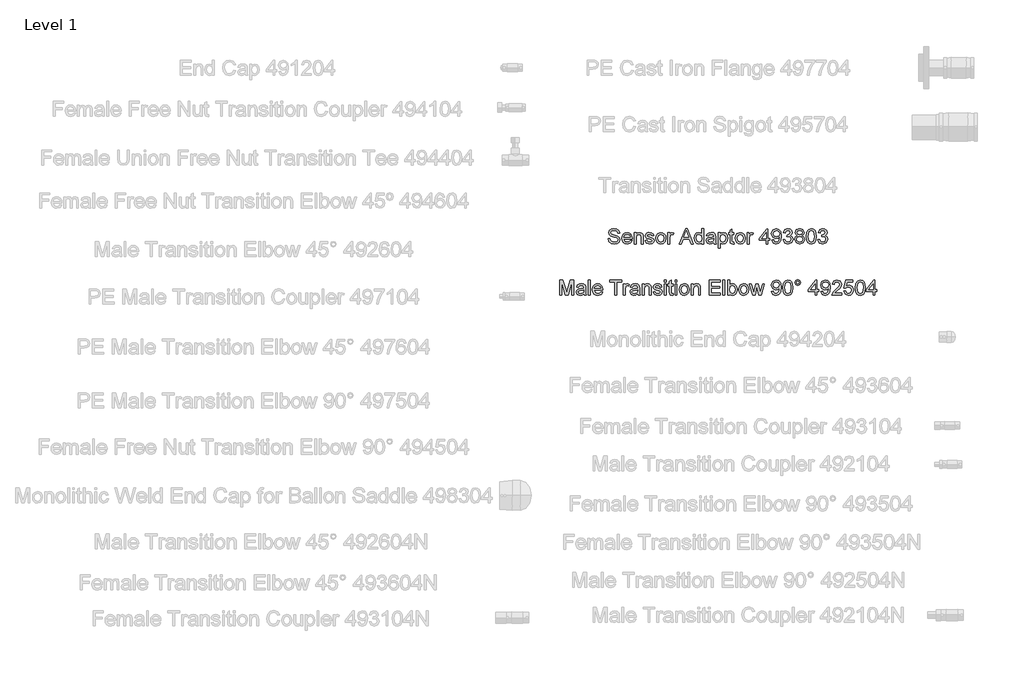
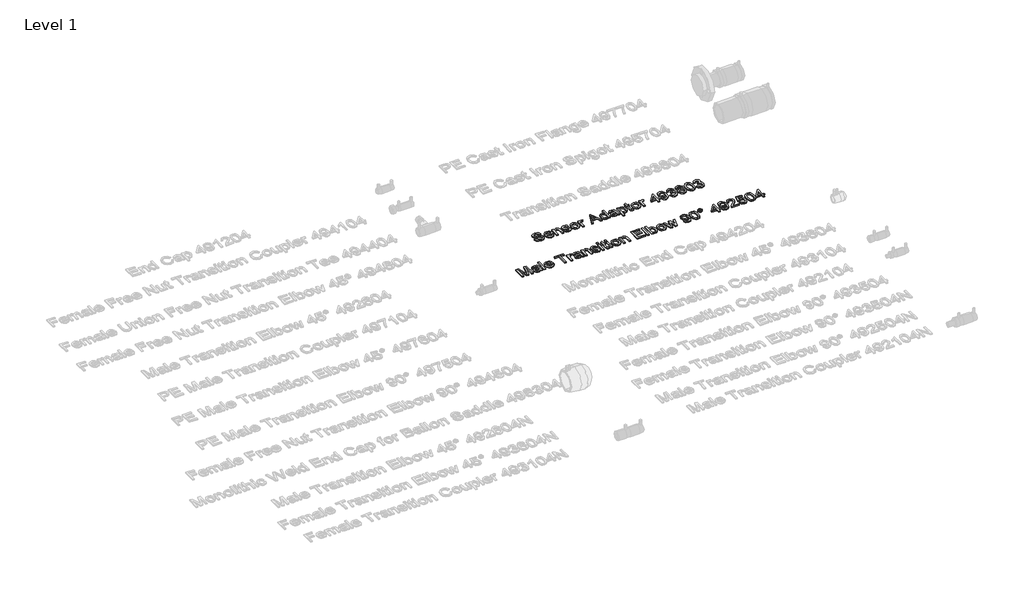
# One storey, part 32 of 38: 2 proxies.
"""IFC4 building model written with IfcOpenShell, lengths in millimetres."""

from ifc_helpers import new_model, si_unit, origin, origin_with_axes, place, context, project, spatial, polyline, outline, extrude, element, save

model = new_model("IFC4")

# Units and contexts
model_context = context("Model", 3, world=origin())
ifc_project = project(units=[si_unit("LENGTHUNIT", "METRE", prefix="MILLI")], contexts=[model_context])

# Site, building, storey
site = spatial("IfcSite", under=ifc_project)
building = spatial("IfcBuilding", under=site)
storey = spatial("IfcBuildingStorey", under=building, Name="Level 1", Elevation=0.0)

# Proxies
placement = place(None, origin())
element("IfcBuildingElementProxy", 1, Name="100 mm Arial", ObjectType="100 mm Arial", at=placement, inside=storey, context=model_context, shape_type="SweptSolid", body=[
    extrude(outline(polyline([(17695.2982199, 4445.0335152), (17702.6828353, 4445.0335152), (17705.062643, 4437.6416883), (17710.875143, 4432.9686113), (17719.7309122, 4431.1873613), (17727.4472584, 4432.535919), (17732.4304314, 4436.2426498), (17734.0674507, 4441.1969767), (17732.8414891, 4445.8051498), (17727.8222584, 4449.1585152), (17717.0698545, 4451.9782267), (17705.4953353, 4455.6200536), (17699.2140853, 4461.115246), (17697.1443737, 4468.4565921), (17699.7044699, 4476.8147652), (17707.1828353, 4482.7138036), (17718.1299507, 4484.7258229), (17729.812643, 4482.6200536), (17737.6011045, 4476.4325536), (17740.5289891, 4467.1873613), (17733.1443737, 4467.1873613), (17728.9616814, 4474.7738998), (17718.4184122, 4477.3412075), (17707.8462968, 4474.802746), (17704.5289891, 4468.6729383), (17706.8799507, 4463.552746), (17718.937643, 4459.427746), (17732.0049507, 4455.7210152), (17739.1515853, 4449.7354383), (17741.4520661, 4441.3844767), (17738.8054314, 4432.5503421), (17731.1900468, 4426.1032267), (17720.0193737, 4423.802746), (17706.8294699, 4426.2835152), (17698.4857199, 4433.754669), (17695.2982199, 4445.0335152)])), origin_with_axes(), (0.0, 0.0, 1.0), 5.0),
    extrude(outline(polyline([(17781.9809122, 4437.6488998), (17789.2212968, 4436.7258229), (17782.4496622, 4427.192169), (17769.8366814, 4423.802746), (17761.172018, 4425.2648854), (17754.5049507, 4429.6513036), (17750.2537487, 4436.677145), (17748.8366814, 4446.0575536), (17750.2681718, 4455.7534671), (17754.562643, 4463.004669), (17761.1395661, 4467.5263036), (17769.4184122, 4469.0335152), (17777.4394459, 4467.5299094), (17783.8487007, 4463.0190921), (17788.0512247, 4455.7823133), (17789.4520661, 4446.1008229), (17789.4087968, 4444.1104383), (17756.2212968, 4444.1104383), (17760.468893, 4434.5190921), (17769.9809122, 4431.1873613), (17777.2212968, 4432.7306306), (17781.9809122, 4437.6488998)]), holes=[polyline([(17756.2212968, 4451.4950536), (17782.0674507, 4451.4950536), (17779.1107199, 4458.1873613), (17769.3895661, 4461.6488998), (17760.2958161, 4458.8868806), (17756.2212968, 4451.4950536)])]), origin_with_axes(), (0.0, 0.0, 1.0), 5.0),
    extrude(outline(polyline([(17796.8366814, 4424.7258229), (17796.8366814, 4468.1104383), (17804.2212968, 4468.1104383), (17804.2212968, 4462.052746), (17809.8679314, 4467.2883229), (17817.5770661, 4469.0335152), (17824.5506237, 4467.6272652), (17829.3102391, 4463.9349575), (17831.5241814, 4458.504669), (17831.9136045, 4451.365246), (17831.9136045, 4424.7258229), (17824.5289891, 4424.7258229), (17824.5289891, 4450.3700536), (17823.6780276, 4456.9037075), (17820.6708161, 4460.3580344), (17815.6011045, 4461.6488998), (17807.5890853, 4458.7498613), (17804.2212968, 4447.7450536), (17804.2212968, 4424.7258229), (17796.8366814, 4424.7258229)])), origin_with_axes(), (0.0, 0.0, 1.0), 5.0),
    extrude(outline(polyline([(17839.2982199, 4437.6488998), (17846.6828353, 4438.5719767), (17850.1011045, 4433.0912075), (17857.9328353, 4431.1873613), (17865.4616814, 4432.9325536), (17867.9136045, 4437.0287075), (17865.4472584, 4440.3460152), (17857.8462968, 4442.4517844), (17846.7261045, 4446.0647652), (17841.8727391, 4450.2835152), (17840.2212968, 4456.240246), (17841.5482199, 4461.7426498), (17845.1684122, 4465.9469767), (17849.8631237, 4468.1320729), (17856.2164891, 4469.0335152), (17865.2020661, 4467.583996), (17870.9136045, 4463.660919), (17873.4520661, 4457.0335152), (17866.0674507, 4456.1104383), (17863.2910084, 4460.1849575), (17856.7934122, 4461.6488998), (17849.7261045, 4460.2498613), (17847.6059122, 4456.990246), (17848.4857199, 4454.8412075), (17851.2405276, 4453.2113998), (17857.6011045, 4451.6392844), (17868.4400468, 4448.1633229), (17873.4737007, 4444.2258229), (17875.2982199, 4437.8075536), (17873.156393, 4430.740246), (17866.9761045, 4425.6128421), (17857.8318737, 4423.802746), (17844.9520661, 4427.2931306), (17839.2982199, 4437.6488998)])), origin_with_axes(), (0.0, 0.0, 1.0), 5.0),
    extrude(outline(polyline([(17881.7597584, 4446.4181306), (17883.3571141, 4456.8784671), (17888.1491814, 4464.2306306), (17901.1587968, 4469.0335152), (17908.9166093, 4467.5713758), (17915.1131237, 4463.1849575), (17919.1750228, 4456.2204142), (17920.5289891, 4447.0238998), (17918.1347584, 4433.8844767), (17911.1612007, 4426.4493806), (17901.1587968, 4423.802746), (17893.3072343, 4425.2594767), (17887.1179314, 4429.629669), (17883.0993016, 4436.740246), (17881.7597584, 4446.4181306)]), holes=[polyline([(17889.1443737, 4446.4325536), (17892.562643, 4434.9878421), (17901.1587968, 4431.1873613), (17909.7261045, 4435.0094767), (17913.1443737, 4446.6633229), (17909.7044699, 4457.848419), (17901.1587968, 4461.6488998), (17892.562643, 4457.8628421), (17889.1443737, 4446.4325536)])]), origin_with_axes(), (0.0, 0.0, 1.0), 5.0),
    extrude(outline(polyline([(17928.8366814, 4424.7258229), (17928.8366814, 4468.1104383), (17935.2982199, 4468.1104383), (17935.2982199, 4461.692169), (17939.8847584, 4467.6056306), (17944.500143, 4469.0335152), (17951.9136045, 4466.754669), (17949.4472584, 4460.1344767), (17944.2549507, 4461.6488998), (17940.0794699, 4460.192169), (17937.4184122, 4456.1537075), (17936.2212968, 4447.5287075), (17936.2212968, 4424.7258229), (17928.8366814, 4424.7258229)])), origin_with_axes(), (0.0, 0.0, 1.0), 5.0),
    extrude(outline(polyline([(17973.6491814, 4424.7258229), (17997.2309122, 4483.802746), (18003.5193737, 4483.802746), (18027.1011045, 4424.7258229), (18019.2982199, 4424.7258229), (18012.5337968, 4443.1873613), (17988.2020661, 4443.1873613), (17981.4520661, 4424.7258229), (17973.6491814, 4424.7258229)]), holes=[polyline([(17990.9136045, 4450.5719767), (18009.8366814, 4450.5719767), (18004.5145661, 4465.0960152), (18000.375143, 4476.4181306), (17996.6972584, 4466.365246), (17990.9136045, 4450.5719767)])]), origin_with_axes(), (0.0, 0.0, 1.0), 5.0),
    extrude(outline(polyline([(18060.8366814, 4424.7258229), (18060.8366814, 4431.692169), (18055.9508641, 4425.7751017), (18049.1972584, 4423.802746), (18040.0530276, 4426.6585152), (18033.5914891, 4434.6272652), (18031.2982199, 4446.3748613), (18033.4112007, 4458.129669), (18039.7429314, 4466.2210152), (18049.1684122, 4469.0335152), (18055.9761045, 4467.021496), (18060.8366814, 4461.7931306), (18060.8366814, 4483.802746), (18068.2212968, 4483.802746), (18068.2212968, 4424.7258229), (18060.8366814, 4424.7258229)]), holes=[polyline([(18038.6828353, 4446.4037075), (18042.0145661, 4434.973419), (18049.875143, 4431.1873613), (18057.6419699, 4434.8003421), (18060.8366814, 4445.8412075), (18057.5842776, 4457.8267844), (18049.5722584, 4461.6488998), (18041.7982199, 4457.9782267), (18038.6828353, 4446.4037075)])]), origin_with_axes(), (0.0, 0.0, 1.0), 5.0),
    extrude(outline(polyline([(18106.9905276, 4430.2642844), (18099.8294699, 4425.2594767), (18091.9184122, 4423.802746), (18081.1948545, 4427.3075536), (18077.4520661, 4436.2642844), (18078.8655276, 4442.1056306), (18082.5794699, 4446.3460152), (18087.750143, 4448.7690921), (18094.1395661, 4449.879669), (18106.9472584, 4452.4181306), (18106.9905276, 4454.0623613), (18104.9568737, 4459.5142844), (18096.7934122, 4461.6488998), (18089.3222584, 4460.2282267), (18085.7597584, 4455.1873613), (18078.375143, 4456.1104383), (18081.5698545, 4463.3219767), (18088.0025468, 4467.5479383), (18097.7453353, 4469.0335152), (18106.6948545, 4467.7210152), (18111.750143, 4464.4253421), (18114.0145661, 4459.4133229), (18114.375143, 4452.9517844), (18114.375143, 4443.7642844), (18114.750143, 4430.9349575), (18116.2212968, 4424.7258229), (18108.8366814, 4424.7258229), (18106.9905276, 4430.2642844)]), holes=[polyline([(18106.9905276, 4445.0335152), (18095.0770661, 4442.7690921), (18088.7237007, 4441.5719767), (18085.8462968, 4439.6248613), (18084.8366814, 4436.7835152), (18087.0362007, 4432.7883229), (18093.4905276, 4431.1873613), (18100.9616814, 4432.9541883), (18105.7789891, 4437.2306306), (18106.9472584, 4442.942169), (18106.9905276, 4445.0335152)])]), origin_with_axes(), (0.0, 0.0, 1.0), 5.0),
    extrude(outline(polyline([(18124.5289891, 4408.1104383), (18124.5289891, 4468.1104383), (18131.9136045, 4468.1104383), (18131.9136045, 4460.8700536), (18137.0193737, 4466.9926498), (18143.9136045, 4469.0335152), (18153.2741814, 4466.177746), (18159.3895661, 4458.129669), (18161.4520661, 4446.7498613), (18159.1227391, 4434.785919), (18152.3583161, 4426.6368806), (18143.0193737, 4423.802746), (18136.593893, 4425.6993806), (18131.9136045, 4430.4950536), (18131.9136045, 4408.1104383), (18124.5289891, 4408.1104383)]), holes=[polyline([(18131.9136045, 4446.0719767), (18135.1083161, 4434.8219767), (18142.8607199, 4431.1873613), (18150.7717776, 4434.9517844), (18154.0674507, 4446.6200536), (18150.8511045, 4457.8988998), (18143.1636045, 4461.6488998), (18135.3246622, 4457.660919), (18131.9136045, 4446.0719767)])]), origin_with_axes(), (0.0, 0.0, 1.0), 5.0),
    extrude(outline(polyline([(18185.4520661, 4430.8844767), (18186.375143, 4424.5094767), (18180.8511045, 4423.802746), (18174.6636045, 4425.0287075), (18171.5770661, 4428.2450536), (18170.6828353, 4436.6248613), (18170.6828353, 4460.7258229), (18165.1443737, 4460.7258229), (18165.1443737, 4468.1104383), (18170.6828353, 4468.1104383), (18170.6828353, 4478.6537075), (18178.0674507, 4482.9950536), (18178.0674507, 4468.1104383), (18185.4520661, 4468.1104383), (18185.4520661, 4460.7258229), (18178.0674507, 4460.7258229), (18178.0674507, 4436.8412075), (18178.4568737, 4433.0335152), (18179.718893, 4431.6849575), (18182.2357199, 4431.1873613), (18185.4520661, 4430.8844767)])), origin_with_axes(), (0.0, 0.0, 1.0), 5.0),
    extrude(outline(polyline([(18190.9905276, 4446.4181306), (18192.5878834, 4456.8784671), (18197.3799507, 4464.2306306), (18210.3895661, 4469.0335152), (18218.1473786, 4467.5713758), (18224.343893, 4463.1849575), (18228.405792, 4456.2204142), (18229.7597584, 4447.0238998), (18227.3655276, 4433.8844767), (18220.3919699, 4426.4493806), (18210.3895661, 4423.802746), (18202.5380036, 4425.2594767), (18196.3487007, 4429.629669), (18192.3300709, 4436.740246), (18190.9905276, 4446.4181306)]), holes=[polyline([(18198.375143, 4446.4325536), (18201.7934122, 4434.9878421), (18210.3895661, 4431.1873613), (18218.9568737, 4435.0094767), (18222.375143, 4446.6633229), (18218.9352391, 4457.848419), (18210.3895661, 4461.6488998), (18201.7934122, 4457.8628421), (18198.375143, 4446.4325536)])]), origin_with_axes(), (0.0, 0.0, 1.0), 5.0),
    extrude(outline(polyline([(18238.0674507, 4424.7258229), (18238.0674507, 4468.1104383), (18244.5289891, 4468.1104383), (18244.5289891, 4461.692169), (18249.1155276, 4467.6056306), (18253.7309122, 4469.0335152), (18261.1443737, 4466.754669), (18258.6780276, 4460.1344767), (18253.4857199, 4461.6488998), (18249.3102391, 4460.192169), (18246.6491814, 4456.1537075), (18245.4520661, 4447.5287075), (18245.4520661, 4424.7258229), (18238.0674507, 4424.7258229)])), origin_with_axes(), (0.0, 0.0, 1.0), 5.0),
    extrude(outline(polyline([(18310.9905276, 4424.7258229), (18310.9905276, 4438.5719767), (18284.2212968, 4438.5719767), (18284.2212968, 4445.9565921), (18312.8366814, 4482.879669), (18318.375143, 4482.879669), (18318.375143, 4445.9565921), (18325.7597584, 4445.9565921), (18325.7597584, 4438.5719767), (18318.375143, 4438.5719767), (18318.375143, 4424.7258229), (18310.9905276, 4424.7258229)]), holes=[polyline([(18310.9905276, 4445.9565921), (18310.9905276, 4468.7738998), (18293.3078353, 4445.9565921), (18310.9905276, 4445.9565921)])]), origin_with_axes(), (0.0, 0.0, 1.0), 5.0),
    extrude(outline(polyline([(18333.1443737, 4439.4950536), (18340.5289891, 4440.4181306), (18343.8462968, 4433.3724575), (18350.1347584, 4431.1873613), (18356.1131237, 4432.5936113), (18360.1660084, 4436.3508229), (18362.5818737, 4442.7690921), (18363.6491814, 4451.3363998), (18357.6996622, 4447.1825536), (18349.6011045, 4445.0335152), (18337.2621622, 4450.2835152), (18332.2212968, 4464.115246), (18337.5073545, 4478.3940921), (18350.7549507, 4483.802746), (18361.2765853, 4480.7162075), (18368.5169699, 4471.9181306), (18370.9905276, 4455.3892844), (18368.5241814, 4437.4541883), (18361.1900468, 4427.2931306), (18349.7886045, 4423.802746), (18338.437643, 4427.9205344), (18333.1443737, 4439.4950536)]), holes=[polyline([(18363.6059122, 4464.2883229), (18360.4184122, 4473.1440921), (18351.9520661, 4476.4181306), (18343.0674507, 4472.8916883), (18339.6059122, 4463.754669), (18342.8799507, 4455.5695729), (18351.750143, 4452.4181306), (18360.2669699, 4455.5695729), (18363.6059122, 4464.2883229)])]), origin_with_axes(), (0.0, 0.0, 1.0), 5.0),
    extrude(outline(polyline([(18377.4520661, 4440.4181306), (18384.8366814, 4441.3412075), (18388.9112007, 4433.567169), (18396.5337968, 4431.1873613), (18405.5049507, 4434.4613998), (18408.8366814, 4442.567169), (18405.5337968, 4450.2041883), (18397.1395661, 4453.2258229), (18391.9616814, 4452.4181306), (18392.7837968, 4459.802746), (18402.3462968, 4461.8363998), (18406.0674507, 4468.3556306), (18403.3703353, 4474.1320729), (18396.4184122, 4476.4181306), (18389.3799507, 4474.1104383), (18385.7597584, 4467.1873613), (18378.375143, 4468.1104383), (18384.4184122, 4479.692169), (18396.1587968, 4483.802746), (18405.0650468, 4481.7763036), (18411.2958161, 4476.2378421), (18413.4520661, 4468.7883229), (18411.4039891, 4461.9806306), (18405.3462968, 4457.0912075), (18413.3943737, 4452.0431306), (18416.2212968, 4442.4373613), (18410.5674507, 4429.2258229), (18396.2741814, 4423.802746), (18383.3222584, 4428.4325536), (18377.4520661, 4440.4181306)])), origin_with_axes(), (0.0, 0.0, 1.0), 5.0),
    extrude(outline(polyline([(18433.4424507, 4457.2642844), (18426.7140853, 4461.8508229), (18424.5289891, 4468.990246), (18429.2886045, 4479.5335152), (18441.9664891, 4483.802746), (18454.7597584, 4479.4325536), (18459.6059122, 4468.7883229), (18457.4496622, 4461.8291883), (18450.9087968, 4457.2642844), (18458.7621622, 4451.473419), (18461.4520661, 4441.9181306), (18456.1155276, 4429.0238998), (18442.0674507, 4423.802746), (18428.0193737, 4429.0455344), (18422.6828353, 4442.1200536), (18425.4809122, 4451.8988998), (18433.4424507, 4457.2642844)]), holes=[polyline([(18430.0674507, 4442.379669), (18431.3006237, 4436.8195729), (18435.6636045, 4432.6585152), (18442.125143, 4431.1873613), (18450.9232199, 4434.2811113), (18454.0674507, 4442.1488998), (18450.8222584, 4450.1681306), (18441.8799507, 4453.3412075), (18433.1900468, 4450.2113998), (18430.0674507, 4442.379669)]), polyline([(18431.9136045, 4468.7738998), (18434.531393, 4462.9758229), (18442.1539891, 4460.7258229), (18449.625143, 4462.9613998), (18452.2212968, 4468.442169), (18449.5386045, 4474.1176498), (18442.0674507, 4476.4181306), (18434.5746622, 4474.1681306), (18431.9136045, 4468.7738998)])]), origin_with_axes(), (0.0, 0.0, 1.0), 5.0),
    extrude(outline(polyline([(18467.9136045, 4453.7883229), (18470.0842776, 4470.785919), (18476.531393, 4480.5863998), (18487.2982199, 4483.802746), (18495.9232199, 4481.8988998), (18501.8799507, 4476.410919), (18505.3414891, 4467.6705344), (18506.6828353, 4453.7883229), (18504.5337968, 4436.8628421), (18498.1083161, 4427.0407267), (18487.2982199, 4423.802746), (18479.625143, 4425.208996), (18473.7982199, 4429.427746), (18469.3847584, 4439.4193325), (18467.9136045, 4453.7883229)]), holes=[polyline([(18475.2982199, 4453.802746), (18478.7597584, 4435.4638036), (18487.2982199, 4431.1873613), (18495.8366814, 4435.4782267), (18499.2982199, 4453.802746), (18495.9520661, 4471.9325536), (18487.2116814, 4476.4181306), (18478.875143, 4472.4662075), (18475.2982199, 4453.802746)])]), origin_with_axes(), (0.0, 0.0, 1.0), 5.0),
    extrude(outline(polyline([(18513.1443737, 4440.4181306), (18520.5289891, 4441.3412075), (18524.6035084, 4433.567169), (18532.2261045, 4431.1873613), (18541.1972584, 4434.4613998), (18544.5289891, 4442.567169), (18541.2261045, 4450.2041883), (18532.8318737, 4453.2258229), (18527.6539891, 4452.4181306), (18528.4761045, 4459.802746), (18538.0386045, 4461.8363998), (18541.7597584, 4468.3556306), (18539.062643, 4474.1320729), (18532.1107199, 4476.4181306), (18525.0722584, 4474.1104383), (18521.4520661, 4467.1873613), (18514.0674507, 4468.1104383), (18520.1107199, 4479.692169), (18531.8511045, 4483.802746), (18540.7573545, 4481.7763036), (18546.9881237, 4476.2378421), (18549.1443737, 4468.7883229), (18547.0962968, 4461.9806306), (18541.0386045, 4457.0912075), (18549.0866814, 4452.0431306), (18551.9136045, 4442.4373613), (18546.2597584, 4429.2258229), (18531.9664891, 4423.802746), (18519.0145661, 4428.4325536), (18513.1443737, 4440.4181306)])), origin_with_axes(), (0.0, 0.0, 1.0), 5.0),
])
element("IfcBuildingElementProxy", 2, Name="100 mm Arial", ObjectType="100 mm Arial", at=placement, inside=storey, context=model_context, shape_type="SweptSolid", body=[
    extrude(outline(polyline([(17506.9905276, 4224.7258229), (17506.9905276, 4283.802746), (17519.6972584, 4283.802746), (17531.7837968, 4242.1633229), (17534.2212968, 4233.4662075), (17536.8607199, 4242.8844767), (17548.7453353, 4283.802746), (17561.4520661, 4283.802746), (17561.4520661, 4224.7258229), (17554.0674507, 4224.7258229), (17554.0674507, 4276.4181306), (17539.2261045, 4224.7258229), (17529.2164891, 4224.7258229), (17514.375143, 4276.4181306), (17514.375143, 4224.7258229), (17506.9905276, 4224.7258229)])), origin_with_axes(), (0.0, 0.0, 1.0), 5.0),
    extrude(outline(polyline([(17601.1443737, 4230.2642844), (17593.9833161, 4225.2594767), (17586.0722584, 4223.802746), (17575.3487007, 4227.3075536), (17571.6059122, 4236.2642844), (17573.0193737, 4242.1056306), (17576.7333161, 4246.3460152), (17581.9039891, 4248.7690921), (17588.2934122, 4249.879669), (17601.1011045, 4252.4181306), (17601.1443737, 4254.0623613), (17599.1107199, 4259.5142844), (17590.9472584, 4261.6488998), (17583.4761045, 4260.2282267), (17579.9136045, 4255.1873613), (17572.5289891, 4256.1104383), (17575.7237007, 4263.3219767), (17582.156393, 4267.5479383), (17591.8991814, 4269.0335152), (17600.8487007, 4267.7210152), (17605.9039891, 4264.4253421), (17608.1684122, 4259.4133229), (17608.5289891, 4252.9517844), (17608.5289891, 4243.7642844), (17608.9039891, 4230.9349575), (17610.375143, 4224.7258229), (17602.9905276, 4224.7258229), (17601.1443737, 4230.2642844)]), holes=[polyline([(17601.1443737, 4245.0335152), (17589.2309122, 4242.7690921), (17582.8775468, 4241.5719767), (17580.000143, 4239.6248613), (17578.9905276, 4236.7835152), (17581.1900468, 4232.7883229), (17587.6443737, 4231.1873613), (17595.1155276, 4232.9541883), (17599.9328353, 4237.2306306), (17601.1011045, 4242.942169), (17601.1443737, 4245.0335152)])]), origin_with_axes(), (0.0, 0.0, 1.0), 5.0),
    extrude(outline(polyline([(17618.6828353, 4224.7258229), (17618.6828353, 4283.802746), (17626.0674507, 4283.802746), (17626.0674507, 4224.7258229), (17618.6828353, 4224.7258229)])), origin_with_axes(), (0.0, 0.0, 1.0), 5.0),
    extrude(outline(polyline([(17667.5193737, 4237.6488998), (17674.7597584, 4236.7258229), (17667.9881237, 4227.192169), (17655.375143, 4223.802746), (17646.7104795, 4225.2648854), (17640.0434122, 4229.6513036), (17635.7922103, 4236.677145), (17634.375143, 4246.0575536), (17635.8066334, 4255.7534671), (17640.1011045, 4263.004669), (17646.6780276, 4267.5263036), (17654.9568737, 4269.0335152), (17662.9779074, 4267.5299094), (17669.3871622, 4263.0190921), (17673.5896862, 4255.7823133), (17674.9905276, 4246.1008229), (17674.9472584, 4244.1104383), (17641.7597584, 4244.1104383), (17646.0073545, 4234.5190921), (17655.5193737, 4231.1873613), (17662.7597584, 4232.7306306), (17667.5193737, 4237.6488998)]), holes=[polyline([(17641.7597584, 4251.4950536), (17667.6059122, 4251.4950536), (17664.6491814, 4258.1873613), (17654.9280276, 4261.6488998), (17645.8342776, 4258.8868806), (17641.7597584, 4251.4950536)])]), origin_with_axes(), (0.0, 0.0, 1.0), 5.0),
    extrude(outline(polyline([(17721.1443737, 4224.7258229), (17721.1443737, 4276.4181306), (17701.7597584, 4276.4181306), (17701.7597584, 4283.802746), (17747.9136045, 4283.802746), (17747.9136045, 4276.4181306), (17728.5289891, 4276.4181306), (17728.5289891, 4224.7258229), (17721.1443737, 4224.7258229)])), origin_with_axes(), (0.0, 0.0, 1.0), 5.0),
    extrude(outline(polyline([(17755.2982199, 4224.7258229), (17755.2982199, 4268.1104383), (17761.7597584, 4268.1104383), (17761.7597584, 4261.692169), (17766.3462968, 4267.6056306), (17770.9616814, 4269.0335152), (17778.375143, 4266.754669), (17775.9087968, 4260.1344767), (17770.7164891, 4261.6488998), (17766.5410084, 4260.192169), (17763.8799507, 4256.1537075), (17762.6828353, 4247.5287075), (17762.6828353, 4224.7258229), (17755.2982199, 4224.7258229)])), origin_with_axes(), (0.0, 0.0, 1.0), 5.0),
    extrude(outline(polyline([(17810.6828353, 4230.2642844), (17803.5217776, 4225.2594767), (17795.6107199, 4223.802746), (17784.8871622, 4227.3075536), (17781.1443737, 4236.2642844), (17782.5578353, 4242.1056306), (17786.2717776, 4246.3460152), (17791.4424507, 4248.7690921), (17797.8318737, 4249.879669), (17810.6395661, 4252.4181306), (17810.6828353, 4254.0623613), (17808.6491814, 4259.5142844), (17800.4857199, 4261.6488998), (17793.0145661, 4260.2282267), (17789.4520661, 4255.1873613), (17782.0674507, 4256.1104383), (17785.2621622, 4263.3219767), (17791.6948545, 4267.5479383), (17801.437643, 4269.0335152), (17810.3871622, 4267.7210152), (17815.4424507, 4264.4253421), (17817.7068737, 4259.4133229), (17818.0674507, 4252.9517844), (17818.0674507, 4243.7642844), (17818.4424507, 4230.9349575), (17819.9136045, 4224.7258229), (17812.5289891, 4224.7258229), (17810.6828353, 4230.2642844)]), holes=[polyline([(17810.6828353, 4245.0335152), (17798.7693737, 4242.7690921), (17792.4160084, 4241.5719767), (17789.5386045, 4239.6248613), (17788.5289891, 4236.7835152), (17790.7285084, 4232.7883229), (17797.1828353, 4231.1873613), (17804.6539891, 4232.9541883), (17809.4712968, 4237.2306306), (17810.6395661, 4242.942169), (17810.6828353, 4245.0335152)])]), origin_with_axes(), (0.0, 0.0, 1.0), 5.0),
    extrude(outline(polyline([(17828.2212968, 4224.7258229), (17828.2212968, 4268.1104383), (17835.6059122, 4268.1104383), (17835.6059122, 4262.052746), (17841.2525468, 4267.2883229), (17848.9616814, 4269.0335152), (17855.9352391, 4267.6272652), (17860.6948545, 4263.9349575), (17862.9087968, 4258.504669), (17863.2982199, 4251.365246), (17863.2982199, 4224.7258229), (17855.9136045, 4224.7258229), (17855.9136045, 4250.3700536), (17855.062643, 4256.9037075), (17852.0554314, 4260.3580344), (17846.9857199, 4261.6488998), (17838.9737007, 4258.7498613), (17835.6059122, 4247.7450536), (17835.6059122, 4224.7258229), (17828.2212968, 4224.7258229)])), origin_with_axes(), (0.0, 0.0, 1.0), 5.0),
    extrude(outline(polyline([(17870.6828353, 4237.6488998), (17878.0674507, 4238.5719767), (17881.4857199, 4233.0912075), (17889.3174507, 4231.1873613), (17896.8462968, 4232.9325536), (17899.2982199, 4237.0287075), (17896.8318737, 4240.3460152), (17889.2309122, 4242.4517844), (17878.1107199, 4246.0647652), (17873.2573545, 4250.2835152), (17871.6059122, 4256.240246), (17872.9328353, 4261.7426498), (17876.5530276, 4265.9469767), (17881.2477391, 4268.1320729), (17887.6011045, 4269.0335152), (17896.5866814, 4267.583996), (17902.2982199, 4263.660919), (17904.8366814, 4257.0335152), (17897.4520661, 4256.1104383), (17894.6756237, 4260.1849575), (17888.1780276, 4261.6488998), (17881.1107199, 4260.2498613), (17878.9905276, 4256.990246), (17879.8703353, 4254.8412075), (17882.625143, 4253.2113998), (17888.9857199, 4251.6392844), (17899.8246622, 4248.1633229), (17904.8583161, 4244.2258229), (17906.6828353, 4237.8075536), (17904.5410084, 4230.740246), (17898.3607199, 4225.6128421), (17889.2164891, 4223.802746), (17876.3366814, 4227.2931306), (17870.6828353, 4237.6488998)])), origin_with_axes(), (0.0, 0.0, 1.0), 5.0),
    extrude(outline(polyline([(17914.9905276, 4276.4181306), (17914.9905276, 4283.802746), (17922.375143, 4283.802746), (17922.375143, 4276.4181306), (17914.9905276, 4276.4181306)])), origin_with_axes(), (0.0, 0.0, 1.0), 5.0),
    extrude(outline(polyline([(17914.9905276, 4224.7258229), (17914.9905276, 4268.1104383), (17922.375143, 4268.1104383), (17922.375143, 4224.7258229), (17914.9905276, 4224.7258229)])), origin_with_axes(), (0.0, 0.0, 1.0), 5.0),
    extrude(outline(polyline([(17949.1443737, 4230.8844767), (17950.0674507, 4224.5094767), (17944.5434122, 4223.802746), (17938.3559122, 4225.0287075), (17935.2693737, 4228.2450536), (17934.375143, 4236.6248613), (17934.375143, 4260.7258229), (17928.8366814, 4260.7258229), (17928.8366814, 4268.1104383), (17934.375143, 4268.1104383), (17934.375143, 4278.6537075), (17941.7597584, 4282.9950536), (17941.7597584, 4268.1104383), (17949.1443737, 4268.1104383), (17949.1443737, 4260.7258229), (17941.7597584, 4260.7258229), (17941.7597584, 4236.8412075), (17942.1491814, 4233.0335152), (17943.4112007, 4231.6849575), (17945.9280276, 4231.1873613), (17949.1443737, 4230.8844767)])), origin_with_axes(), (0.0, 0.0, 1.0), 5.0),
    extrude(outline(polyline([(17956.5289891, 4276.4181306), (17956.5289891, 4283.802746), (17963.9136045, 4283.802746), (17963.9136045, 4276.4181306), (17956.5289891, 4276.4181306)])), origin_with_axes(), (0.0, 0.0, 1.0), 5.0),
    extrude(outline(polyline([(17956.5289891, 4224.7258229), (17956.5289891, 4268.1104383), (17963.9136045, 4268.1104383), (17963.9136045, 4224.7258229), (17956.5289891, 4224.7258229)])), origin_with_axes(), (0.0, 0.0, 1.0), 5.0),
    extrude(outline(polyline([(17973.1443737, 4246.4181306), (17974.7417295, 4256.8784671), (17979.5337968, 4264.2306306), (17992.5434122, 4269.0335152), (18000.3012247, 4267.5713758), (18006.4977391, 4263.1849575), (18010.5596382, 4256.2204142), (18011.9136045, 4247.0238998), (18009.5193737, 4233.8844767), (18002.5458161, 4226.4493806), (17992.5434122, 4223.802746), (17984.6918497, 4225.2594767), (17978.5025468, 4229.629669), (17974.483917, 4236.740246), (17973.1443737, 4246.4181306)]), holes=[polyline([(17980.5289891, 4246.4325536), (17983.9472584, 4234.9878421), (17992.5434122, 4231.1873613), (18001.1107199, 4235.0094767), (18004.5289891, 4246.6633229), (18001.0890853, 4257.848419), (17992.5434122, 4261.6488998), (17983.9472584, 4257.8628421), (17980.5289891, 4246.4325536)])]), origin_with_axes(), (0.0, 0.0, 1.0), 5.0),
    extrude(outline(polyline([(18020.2212968, 4224.7258229), (18020.2212968, 4268.1104383), (18027.6059122, 4268.1104383), (18027.6059122, 4262.052746), (18033.2525468, 4267.2883229), (18040.9616814, 4269.0335152), (18047.9352391, 4267.6272652), (18052.6948545, 4263.9349575), (18054.9087968, 4258.504669), (18055.2982199, 4251.365246), (18055.2982199, 4224.7258229), (18047.9136045, 4224.7258229), (18047.9136045, 4250.3700536), (18047.062643, 4256.9037075), (18044.0554314, 4260.3580344), (18038.9857199, 4261.6488998), (18030.9737007, 4258.7498613), (18027.6059122, 4247.7450536), (18027.6059122, 4224.7258229), (18020.2212968, 4224.7258229)])), origin_with_axes(), (0.0, 0.0, 1.0), 5.0),
    extrude(outline(polyline([(18089.4520661, 4224.7258229), (18089.4520661, 4283.802746), (18131.9136045, 4283.802746), (18131.9136045, 4276.4181306), (18096.8366814, 4276.4181306), (18096.8366814, 4258.879669), (18130.0674507, 4258.879669), (18130.0674507, 4251.4950536), (18096.8366814, 4251.4950536), (18096.8366814, 4232.1104383), (18132.8366814, 4232.1104383), (18132.8366814, 4224.7258229), (18089.4520661, 4224.7258229)])), origin_with_axes(), (0.0, 0.0, 1.0), 5.0),
    extrude(outline(polyline([(18142.9905276, 4224.7258229), (18142.9905276, 4283.802746), (18150.375143, 4283.802746), (18150.375143, 4224.7258229), (18142.9905276, 4224.7258229)])), origin_with_axes(), (0.0, 0.0, 1.0), 5.0),
    extrude(outline(polyline([(18168.8366814, 4224.7258229), (18161.4520661, 4224.7258229), (18161.4520661, 4283.802746), (18168.8366814, 4283.802746), (18168.8366814, 4261.8940921), (18174.0073545, 4267.2486594), (18180.4328353, 4269.0335152), (18187.8318737, 4267.4253421), (18193.5722584, 4262.9037075), (18197.0987007, 4255.8724575), (18198.375143, 4247.067169), (18197.0536286, 4237.208996), (18193.0890853, 4229.8748613), (18187.2711766, 4225.3207748), (18180.3895661, 4223.802746), (18173.8234603, 4225.7606786), (18168.8366814, 4231.6344767), (18168.8366814, 4224.7258229)]), holes=[polyline([(18168.8366814, 4246.7210152), (18170.8559122, 4236.3940921), (18179.7549507, 4231.1873613), (18187.6587968, 4235.0238998), (18190.9905276, 4246.4613998), (18187.7958161, 4257.942169), (18180.0722584, 4261.6488998), (18172.1684122, 4257.8123613), (18168.8366814, 4246.7210152)])]), origin_with_axes(), (0.0, 0.0, 1.0), 5.0),
    extrude(outline(polyline([(18204.8366814, 4246.4181306), (18206.4340372, 4256.8784671), (18211.2261045, 4264.2306306), (18224.2357199, 4269.0335152), (18231.9935324, 4267.5713758), (18238.1900468, 4263.1849575), (18242.2519459, 4256.2204142), (18243.6059122, 4247.0238998), (18241.2116814, 4233.8844767), (18234.2381237, 4226.4493806), (18224.2357199, 4223.802746), (18216.3841574, 4225.2594767), (18210.1948545, 4229.629669), (18206.1762247, 4236.740246), (18204.8366814, 4246.4181306)]), holes=[polyline([(18212.2212968, 4246.4325536), (18215.6395661, 4234.9878421), (18224.2357199, 4231.1873613), (18232.8030276, 4235.0094767), (18236.2212968, 4246.6633229), (18232.781393, 4257.848419), (18224.2357199, 4261.6488998), (18215.6395661, 4257.8628421), (18212.2212968, 4246.4325536)])]), origin_with_axes(), (0.0, 0.0, 1.0), 5.0),
    extrude(outline(polyline([(18259.1107199, 4224.7258229), (18245.9136045, 4268.1104383), (18253.5866814, 4268.1104383), (18261.0722584, 4242.7979383), (18263.3078353, 4233.754669), (18265.1395661, 4242.4662075), (18271.0962968, 4268.1104383), (18279.8943737, 4268.1104383), (18285.8222584, 4242.5383229), (18287.4520661, 4234.6488998), (18289.7886045, 4242.9710152), (18297.2886045, 4268.1104383), (18304.9905276, 4268.1104383), (18291.6924507, 4224.7258229), (18282.7645661, 4224.7258229), (18277.0962968, 4250.1681306), (18275.4520661, 4258.1008229), (18268.1395661, 4224.7258229), (18259.1107199, 4224.7258229)])), origin_with_axes(), (0.0, 0.0, 1.0), 5.0),
    extrude(outline(polyline([(18332.2212968, 4239.4950536), (18339.6059122, 4240.4181306), (18342.9232199, 4233.3724575), (18349.2116814, 4231.1873613), (18355.1900468, 4232.5936113), (18359.2429314, 4236.3508229), (18361.6587968, 4242.7690921), (18362.7261045, 4251.3363998), (18356.7765853, 4247.1825536), (18348.6780276, 4245.0335152), (18336.3390853, 4250.2835152), (18331.2982199, 4264.115246), (18336.5842776, 4278.3940921), (18349.8318737, 4283.802746), (18360.3535084, 4280.7162075), (18367.593893, 4271.9181306), (18370.0674507, 4255.3892844), (18367.6011045, 4237.4541883), (18360.2669699, 4227.2931306), (18348.8655276, 4223.802746), (18337.5145661, 4227.9205344), (18332.2212968, 4239.4950536)]), holes=[polyline([(18362.6828353, 4264.2883229), (18359.4953353, 4273.1440921), (18351.0289891, 4276.4181306), (18342.1443737, 4272.8916883), (18338.6828353, 4263.754669), (18341.9568737, 4255.5695729), (18350.8270661, 4252.4181306), (18359.343893, 4255.5695729), (18362.6828353, 4264.2883229)])]), origin_with_axes(), (0.0, 0.0, 1.0), 5.0),
    extrude(outline(polyline([(18376.5289891, 4253.7883229), (18378.6996622, 4270.785919), (18385.1467776, 4280.5863998), (18395.9136045, 4283.802746), (18404.5386045, 4281.8988998), (18410.4953353, 4276.410919), (18413.9568737, 4267.6705344), (18415.2982199, 4253.7883229), (18413.1491814, 4236.8628421), (18406.7237007, 4227.0407267), (18395.9136045, 4223.802746), (18388.2405276, 4225.208996), (18382.4136045, 4229.427746), (18378.000143, 4239.4193325), (18376.5289891, 4253.7883229)]), holes=[polyline([(18383.9136045, 4253.802746), (18387.375143, 4235.4638036), (18395.9136045, 4231.1873613), (18404.4520661, 4235.4782267), (18407.9136045, 4253.802746), (18404.5674507, 4271.9325536), (18395.8270661, 4276.4181306), (18387.4905276, 4272.4662075), (18383.9136045, 4253.802746)])]), origin_with_axes(), (0.0, 0.0, 1.0), 5.0),
    extrude(outline(polyline([(18423.6059122, 4273.6633229), (18426.8583161, 4281.4950536), (18434.6684122, 4284.7258229), (18442.5289891, 4281.4950536), (18445.7597584, 4273.6633229), (18442.5073545, 4265.8243806), (18434.6684122, 4262.5719767), (18426.8583161, 4265.802746), (18423.6059122, 4273.6633229)]), holes=[polyline([(18428.2212968, 4273.6488998), (18430.1179314, 4269.0767844), (18434.6972584, 4267.1873613), (18439.2477391, 4269.0767844), (18441.1443737, 4273.6488998), (18439.2477391, 4278.2210152), (18434.6972584, 4280.1104383), (18430.1179314, 4278.2210152), (18428.2212968, 4273.6488998)])]), origin_with_axes(), (0.0, 0.0, 1.0), 5.0),
    extrude(outline(polyline([(18502.0674507, 4224.7258229), (18502.0674507, 4238.5719767), (18475.2982199, 4238.5719767), (18475.2982199, 4245.9565921), (18503.9136045, 4282.879669), (18509.4520661, 4282.879669), (18509.4520661, 4245.9565921), (18516.8366814, 4245.9565921), (18516.8366814, 4238.5719767), (18509.4520661, 4238.5719767), (18509.4520661, 4224.7258229), (18502.0674507, 4224.7258229)]), holes=[polyline([(18502.0674507, 4245.9565921), (18502.0674507, 4268.7738998), (18484.3847584, 4245.9565921), (18502.0674507, 4245.9565921)])]), origin_with_axes(), (0.0, 0.0, 1.0), 5.0),
    extrude(outline(polyline([(18524.2212968, 4239.4950536), (18531.6059122, 4240.4181306), (18534.9232199, 4233.3724575), (18541.2116814, 4231.1873613), (18547.1900468, 4232.5936113), (18551.2429314, 4236.3508229), (18553.6587968, 4242.7690921), (18554.7261045, 4251.3363998), (18548.7765853, 4247.1825536), (18540.6780276, 4245.0335152), (18528.3390853, 4250.2835152), (18523.2982199, 4264.115246), (18528.5842776, 4278.3940921), (18541.8318737, 4283.802746), (18552.3535084, 4280.7162075), (18559.593893, 4271.9181306), (18562.0674507, 4255.3892844), (18559.6011045, 4237.4541883), (18552.2669699, 4227.2931306), (18540.8655276, 4223.802746), (18529.5145661, 4227.9205344), (18524.2212968, 4239.4950536)]), holes=[polyline([(18554.6828353, 4264.2883229), (18551.4953353, 4273.1440921), (18543.0289891, 4276.4181306), (18534.1443737, 4272.8916883), (18530.6828353, 4263.754669), (18533.9568737, 4255.5695729), (18542.8270661, 4252.4181306), (18551.343893, 4255.5695729), (18554.6828353, 4264.2883229)])]), origin_with_axes(), (0.0, 0.0, 1.0), 5.0),
    extrude(outline(polyline([(18606.375143, 4232.1104383), (18606.375143, 4224.7258229), (18567.6059122, 4224.7258229), (18568.3991814, 4229.817169), (18572.8847584, 4237.6561113), (18582.1299507, 4246.2162075), (18594.8799507, 4258.5190921), (18598.0674507, 4266.8844767), (18595.0602391, 4273.6561113), (18587.2068737, 4276.4181306), (18579.0217776, 4273.7210152), (18575.9136045, 4266.2642844), (18568.5289891, 4267.1873613), (18574.1900468, 4279.5479383), (18587.3655276, 4283.802746), (18600.5842776, 4279.0719767), (18605.4520661, 4267.3315921), (18604.1395661, 4260.3291883), (18599.7765853, 4253.0888036), (18589.1972584, 4242.9710152), (18580.7020661, 4235.8676498), (18577.3703353, 4232.1104383), (18606.375143, 4232.1104383)])), origin_with_axes(), (0.0, 0.0, 1.0), 5.0),
    extrude(outline(polyline([(18613.7597584, 4240.4181306), (18621.1443737, 4241.3412075), (18624.8655276, 4233.7330344), (18632.5818737, 4231.1873613), (18641.8414891, 4234.7282267), (18645.1443737, 4244.1248613), (18642.0506237, 4252.8940921), (18632.6972584, 4256.1104383), (18626.2140853, 4254.8267844), (18622.0674507, 4251.4950536), (18614.6828353, 4252.4181306), (18621.1443737, 4282.879669), (18649.7597584, 4282.879669), (18649.7597584, 4275.4950536), (18627.1155276, 4275.4950536), (18623.9568737, 4259.2258229), (18634.7597584, 4263.4950536), (18647.3871622, 4258.2017844), (18652.5289891, 4244.5863998), (18647.8991814, 4230.8844767), (18641.250143, 4225.5731786), (18632.5530276, 4223.802746), (18619.5217776, 4228.3532267), (18613.7597584, 4240.4181306)])), origin_with_axes(), (0.0, 0.0, 1.0), 5.0),
    extrude(outline(polyline([(18658.9905276, 4253.7883229), (18661.1612007, 4270.785919), (18667.6083161, 4280.5863998), (18678.375143, 4283.802746), (18687.000143, 4281.8988998), (18692.9568737, 4276.410919), (18696.4184122, 4267.6705344), (18697.7597584, 4253.7883229), (18695.6107199, 4236.8628421), (18689.1852391, 4227.0407267), (18678.375143, 4223.802746), (18670.7020661, 4225.208996), (18664.875143, 4229.427746), (18660.4616814, 4239.4193325), (18658.9905276, 4253.7883229)]), holes=[polyline([(18666.375143, 4253.802746), (18669.8366814, 4235.4638036), (18678.375143, 4231.1873613), (18686.9136045, 4235.4782267), (18690.375143, 4253.802746), (18687.0289891, 4271.9325536), (18678.2886045, 4276.4181306), (18669.9520661, 4272.4662075), (18666.375143, 4253.802746)])]), origin_with_axes(), (0.0, 0.0, 1.0), 5.0),
    extrude(outline(polyline([(18728.2212968, 4224.7258229), (18728.2212968, 4238.5719767), (18701.4520661, 4238.5719767), (18701.4520661, 4245.9565921), (18730.0674507, 4282.879669), (18735.6059122, 4282.879669), (18735.6059122, 4245.9565921), (18742.9905276, 4245.9565921), (18742.9905276, 4238.5719767), (18735.6059122, 4238.5719767), (18735.6059122, 4224.7258229), (18728.2212968, 4224.7258229)]), holes=[polyline([(18728.2212968, 4245.9565921), (18728.2212968, 4268.7738998), (18710.5386045, 4245.9565921), (18728.2212968, 4245.9565921)])]), origin_with_axes(), (0.0, 0.0, 1.0), 5.0),
])

save(model, "model.ifc")
